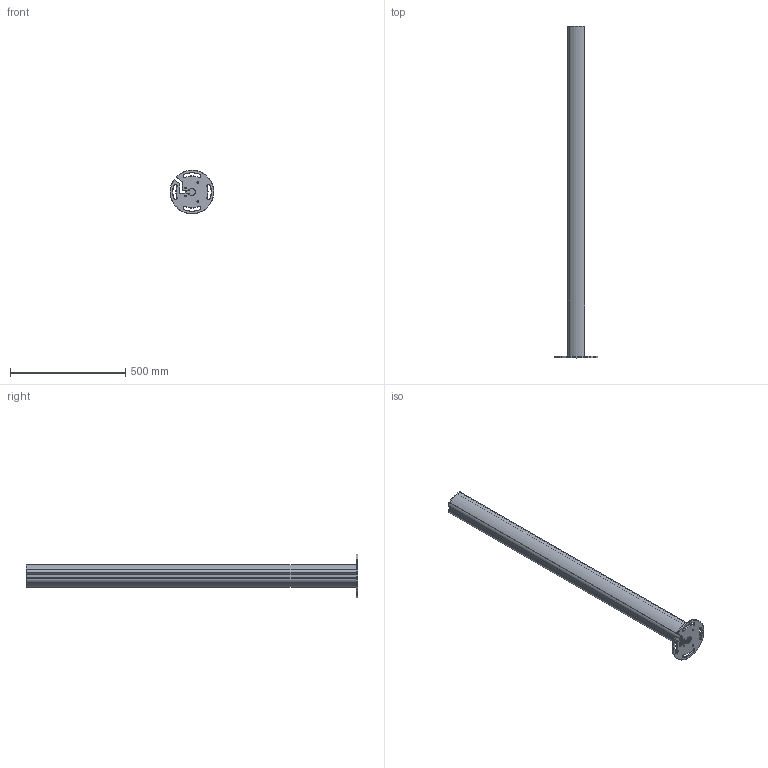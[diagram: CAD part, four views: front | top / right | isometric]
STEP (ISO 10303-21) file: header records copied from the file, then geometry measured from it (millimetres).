
FILE_DESCRIPTION((''),'2;1');
FILE_NAME('ESQC_ASM','2022-07-19T12:13:18',('18822879468'),(''),'CREO PARAMETRIC BY PTC INC, 2019010','CREO PARAMETRIC BY PTC INC, 2019010','');
FILE_SCHEMA(('CONFIG_CONTROL_DESIGN'));
Length unit declared in the file: millimetre
Products named in the file (5): 00; _-0001; _-0002; 000; ESQC_ASM
Assembly tree (4 placements, depth 2):
  ESQC_ASM
    00
    _-0001
    _-0002
    000
Bounding box: 189.81 x 1440 x 189.85 mm (x, y, z)
Volume: 2110860.9 mm3; surface area: 1116354 mm2
Topology: 4 solids, 4 shells, 239 faces, 613 edges, 378 vertices
Faces by surface type: cylinder 98, plane 73, cone 68
Entity records: 7388 total; most frequent: DIRECTION 1365, CARTESIAN_POINT 1235, ORIENTED_EDGE 1218, EDGE_CURVE 609, AXIS2_PLACEMENT_3D 508, VERTEX_POINT 378, VECTOR 349, LINE 349
